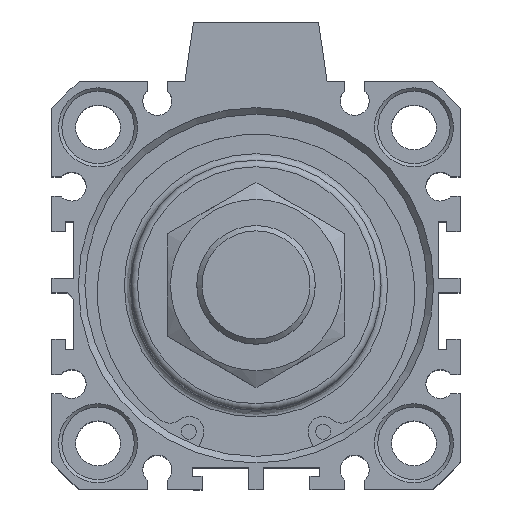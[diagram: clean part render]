
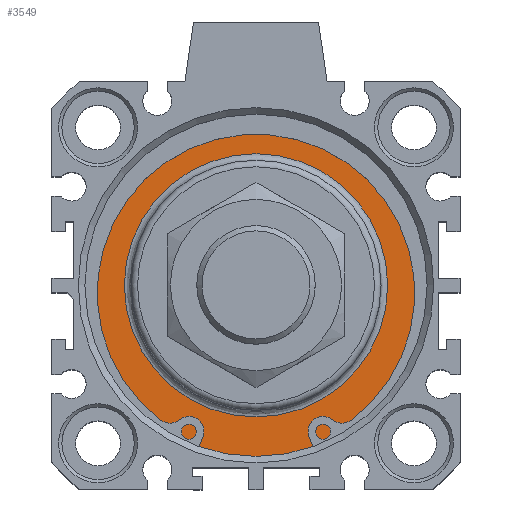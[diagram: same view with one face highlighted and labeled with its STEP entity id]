
A CAD part, top view. The second image highlights one B-rep face of the part: STEP entity #3549.
In plain terms, the highlighted planar face has unit normal (0, 0, 1).
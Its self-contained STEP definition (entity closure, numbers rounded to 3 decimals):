
#3498=CARTESIAN_POINT('',(-0.12,20.837,54.3));
#3499=VERTEX_POINT('',#3498);
#3500=CARTESIAN_POINT('',(-0.12,0.837,54.3));
#3501=DIRECTION('',(0.0,0.0,1.0));
#3502=DIRECTION('',(0.0,-1.0,0.0));
#3503=AXIS2_PLACEMENT_3D('',#3500,#3501,#3502);
#3504=CIRCLE('',#3503,20.0);
#3505=EDGE_CURVE('',#3499,#3499,#3504,.T.);
#3530=CARTESIAN_POINT('',(-0.12,23.337,54.3));
#3531=DIRECTION('',(0.0,0.0,1.0));
#3532=DIRECTION('',(1.0,0.0,0.0));
#3533=AXIS2_PLACEMENT_3D('',#3530,#3531,#3532);
#3534=PLANE('',#3533);
#3535=CARTESIAN_POINT('',(-0.12,26.837,54.3));
#3536=VERTEX_POINT('',#3535);
#3537=CARTESIAN_POINT('',(-0.12,0.837,54.3));
#3538=DIRECTION('',(0.0,0.0,-1.0));
#3539=DIRECTION('',(0.0,1.0,0.0));
#3540=AXIS2_PLACEMENT_3D('',#3537,#3538,#3539);
#3541=CIRCLE('',#3540,26.);
#3542=EDGE_CURVE('',#3536,#3536,#3541,.T.);
#3543=ORIENTED_EDGE('',*,*,#3542,.F.);
#3544=EDGE_LOOP('',(#3543));
#3545=FACE_OUTER_BOUND('',#3544,.T.);
#3546=ORIENTED_EDGE('',*,*,#3505,.F.);
#3547=EDGE_LOOP('',(#3546));
#3548=FACE_BOUND('',#3547,.T.);
#3549=ADVANCED_FACE('',(#3545,#3548),#3534,.T.);
